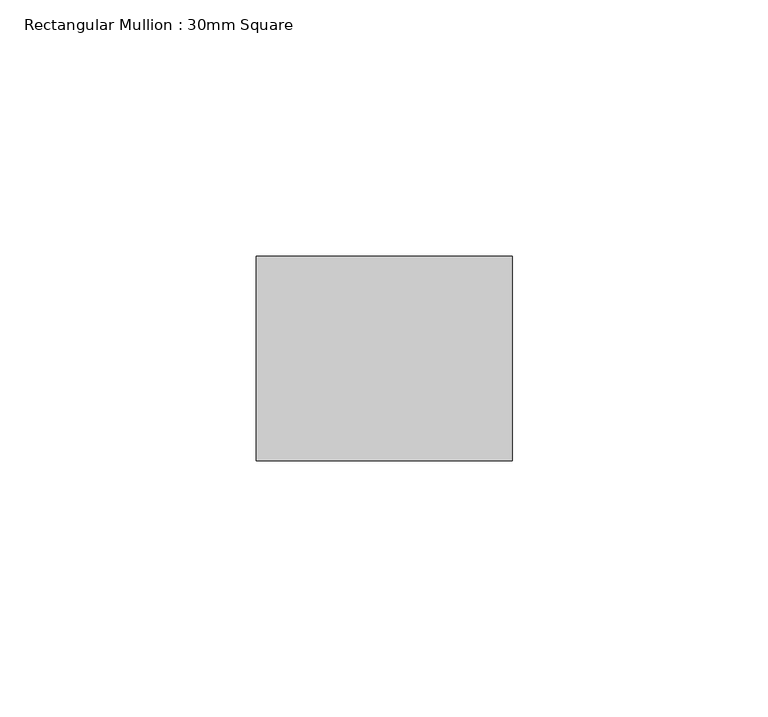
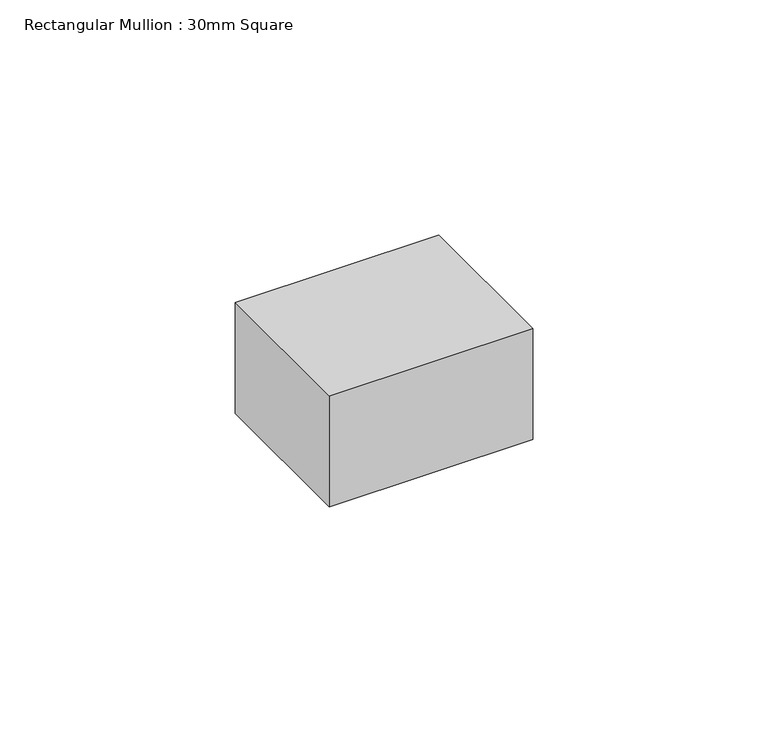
"""IFC4 building model written with IfcOpenShell, lengths in millimetres: member geometry, Rectangular Mullion : 30mm Square."""

from ifc_helpers import new_model, si_unit, frame, origin, place, context, project, spatial, polyline, outline, extrude, source, transform, mapped, element, save


def rectangular_mullion_30mm_square_45bacf98(model_context):
    return source(origin(), model_context, "Body", "SweptSolid", [
        extrude(outline(polyline([(0.0, 20.0), (0.0, -20.0), (-50.0, -20.0), (-50.0, 20.0), (0.0, 20.0)])), frame((0.0, 0.0, -28.8162338), z_axis=(0.0, 0.0, 1.0), x_axis=(1.0, 0.0, 0.0)), (0.0, 0.0, 1.0), 28.8162338),
    ])


if __name__ == "__main__":
    model = new_model("IFC4")
    model_context = context("Model", 3, world=origin())
    ifc_project = project(units=[si_unit("LENGTHUNIT", "METRE", prefix="MILLI")], contexts=[model_context])
    site = spatial("IfcSite", under=ifc_project)
    building = spatial("IfcBuilding", under=site)
    placement = place(None, origin())
    rectangular_mullion_30mm_square_shape = rectangular_mullion_30mm_square_45bacf98(model_context)
    element("IfcMember", 1, ObjectType="Rectangular Mullion : 30mm Square", at=placement, inside=building, context=model_context, shape_type="MappedRepresentation", body=[
        mapped(rectangular_mullion_30mm_square_shape, transform((0.0, 0.0, 0.0), x_axis=(1.0, 0.0, 0.0), y_axis=(0.0, 1.0, 0.0), z_axis=(0.0, 0.0, 1.0))),
    ])
    save(model, "model.ifc")
